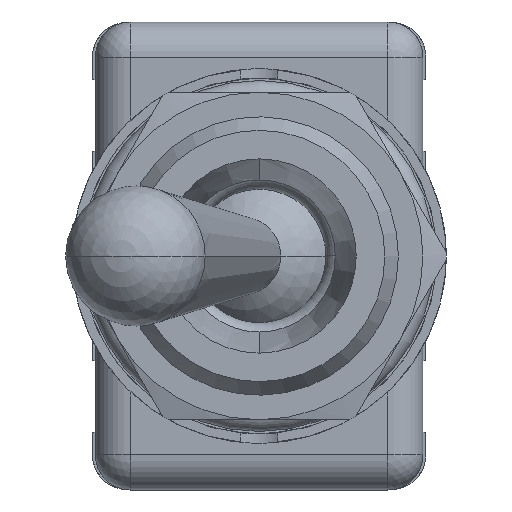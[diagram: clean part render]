
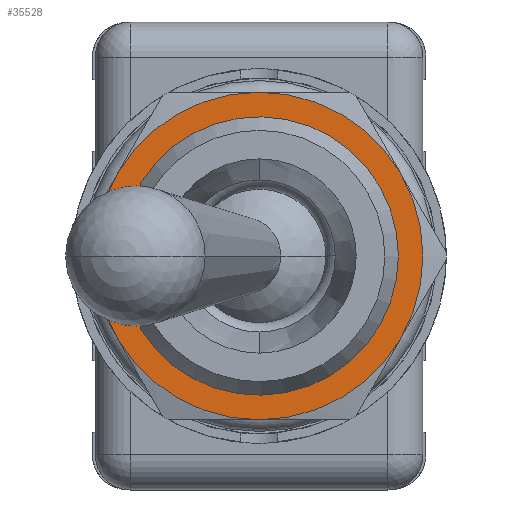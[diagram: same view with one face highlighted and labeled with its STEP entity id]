
A CAD part, front view. The second image highlights one B-rep face of the part: STEP entity #35528.
In plain terms, the highlighted planar face has unit normal (0, -1, 0).
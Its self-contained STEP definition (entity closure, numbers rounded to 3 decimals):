
#13486=CARTESIAN_POINT('',(0.,-17.,0.));
#13487=DIRECTION('',(0.,-1.,0.));
#13488=DIRECTION('',(0.867,0.,-0.499));
#13489=AXIS2_PLACEMENT_3D('',#13486,#13487,#13488);
#13524=DIRECTION('',(0.5,0.,0.866));
#13525=VECTOR('',#13524,0.014);
#13526=CARTESIAN_POINT('',(-6.066,-17.,3.494));
#13527=LINE('',#13526,#13525);
#13528=CARTESIAN_POINT('',(0.,-17.,0.));
#13529=DIRECTION('',(0.,1.,0.));
#13530=DIRECTION('',(-0.866,0.,0.501));
#13531=AXIS2_PLACEMENT_3D('',#13528,#13529,#13530);
#13533=DIRECTION('',(-1.,0.,0.));
#13534=VECTOR('',#13533,0.014);
#13535=CARTESIAN_POINT('',(0.007,-17.,7.));
#13536=LINE('',#13535,#13534);
#13537=CARTESIAN_POINT('',(0.,-17.,0.));
#13538=DIRECTION('',(0.,1.,0.));
#13539=DIRECTION('',(0.001,0.,1.));
#13540=AXIS2_PLACEMENT_3D('',#13537,#13538,#13539);
#13542=DIRECTION('',(-0.5,0.,0.866));
#13543=VECTOR('',#13542,0.014);
#13544=CARTESIAN_POINT('',(6.066,-17.,3.494));
#13545=LINE('',#13544,#13543);
#13546=DIRECTION('',(0.5,0.,0.866));
#13547=VECTOR('',#13546,0.014);
#13548=CARTESIAN_POINT('',(6.059,-17.,-3.506));
#13549=LINE('',#13548,#13547);
#13550=CARTESIAN_POINT('',(0.,-17.,0.));
#13551=DIRECTION('',(0.,-1.,0.));
#13552=DIRECTION('',(0.001,0.,-1.));
#13553=AXIS2_PLACEMENT_3D('',#13550,#13551,#13552);
#13555=DIRECTION('',(1.,0.,0.));
#13556=VECTOR('',#13555,0.014);
#13557=CARTESIAN_POINT('',(-0.007,-17.,-7.));
#13558=LINE('',#13557,#13556);
#13559=CARTESIAN_POINT('',(0.,-17.,0.));
#13560=DIRECTION('',(0.,-1.,0.));
#13561=DIRECTION('',(-0.866,0.,-0.501));
#13562=AXIS2_PLACEMENT_3D('',#13559,#13560,#13561);
#13564=DIRECTION('',(0.5,0.,-0.866));
#13565=VECTOR('',#13564,0.014);
#13566=CARTESIAN_POINT('',(-6.066,-17.,-3.494));
#13567=LINE('',#13566,#13565);
#13568=CARTESIAN_POINT('',(0.,-17.,0.));
#13569=DIRECTION('',(0.,-1.,0.));
#13570=DIRECTION('',(-0.867,0.,0.499));
#13571=AXIS2_PLACEMENT_3D('',#13568,#13569,#13570);
#13585=CARTESIAN_POINT('',(-6.066,-17.,-3.494));
#13632=CARTESIAN_POINT('',(-0.007,-17.,-7.));
#13711=CARTESIAN_POINT('',(6.059,-17.,-3.506));
#13865=CARTESIAN_POINT('',(0.,-17.,0.));
#13866=DIRECTION('',(0.,1.,0.));
#13867=DIRECTION('',(-0.849,0.,0.529));
#13868=AXIS2_PLACEMENT_3D('',#13865,#13866,#13867);
#13933=DIRECTION('',(0.,0.,-1.));
#13934=VECTOR('',#13933,0.294);
#13935=CARTESIAN_POINT('',(-5.05,-17.,3.147));
#13936=LINE('',#13935,#13934);
#13937=DIRECTION('',(0.,0.,-1.));
#13938=VECTOR('',#13937,0.294);
#13939=CARTESIAN_POINT('',(-5.05,-17.,-2.852));
#13940=LINE('',#13939,#13938);
#13982=CARTESIAN_POINT('',(0.,-17.,0.));
#13983=DIRECTION('',(0.,1.,0.));
#13984=DIRECTION('',(-0.871,0.,-0.492));
#13985=AXIS2_PLACEMENT_3D('',#13982,#13983,#13984);
#18743=VERTEX_POINT('',#13585);
#18744=CARTESIAN_POINT('',(-6.059,-17.,-3.506));
#18745=VERTEX_POINT('',#18744);
#18746=VERTEX_POINT('',#13632);
#18747=CARTESIAN_POINT('',(0.007,-17.,-7.));
#18748=VERTEX_POINT('',#18747);
#18749=VERTEX_POINT('',#13711);
#18750=CARTESIAN_POINT('',(6.066,-17.,-3.494));
#18751=VERTEX_POINT('',#18750);
#18752=CARTESIAN_POINT('',(6.066,-17.,3.494));
#18753=CARTESIAN_POINT('',(6.059,-17.,3.506));
#18754=VERTEX_POINT('',#18752);
#18755=VERTEX_POINT('',#18753);
#18756=CARTESIAN_POINT('',(0.007,-17.,7.));
#18757=CARTESIAN_POINT('',(-0.007,-17.,7.));
#18758=VERTEX_POINT('',#18756);
#18759=VERTEX_POINT('',#18757);
#18760=CARTESIAN_POINT('',(-6.066,-17.,3.494));
#18761=CARTESIAN_POINT('',(-6.059,-17.,3.506));
#18762=VERTEX_POINT('',#18760);
#18763=VERTEX_POINT('',#18761);
#18790=CARTESIAN_POINT('',(-5.05,-17.,3.147));
#18791=CARTESIAN_POINT('',(-5.05,-17.,2.853));
#18792=VERTEX_POINT('',#18790);
#18793=VERTEX_POINT('',#18791);
#18794=CARTESIAN_POINT('',(-5.05,-17.,-2.852));
#18795=CARTESIAN_POINT('',(-5.05,-17.,-3.146));
#18796=VERTEX_POINT('',#18794);
#18797=VERTEX_POINT('',#18795);
#35491=CARTESIAN_POINT('',(0.,-17.,0.));
#35492=DIRECTION('',(0.,-1.,0.));
#35493=DIRECTION('',(-1.,0.,0.));
#35494=AXIS2_PLACEMENT_3D('',#35491,#35492,#35493);
#35495=PLANE('',#35494);
#35497=ORIENTED_EDGE('',*,*,#35496,.F.);
#35498=ORIENTED_EDGE('',*,*,#35367,.T.);
#35500=ORIENTED_EDGE('',*,*,#35499,.T.);
#35501=ORIENTED_EDGE('',*,*,#35402,.F.);
#35503=ORIENTED_EDGE('',*,*,#35502,.T.);
#35504=ORIENTED_EDGE('',*,*,#35438,.F.);
#35505=ORIENTED_EDGE('',*,*,#35482,.F.);
#35507=ORIENTED_EDGE('',*,*,#35506,.F.);
#35509=ORIENTED_EDGE('',*,*,#35508,.F.);
#35511=ORIENTED_EDGE('',*,*,#35510,.F.);
#35513=ORIENTED_EDGE('',*,*,#35512,.F.);
#35515=ORIENTED_EDGE('',*,*,#35514,.F.);
#35516=EDGE_LOOP('',(#35497,#35498,#35500,#35501,#35503,#35504,#35505,#35507,
#35509,#35511,#35513,#35515));
#35517=FACE_OUTER_BOUND('',#35516,.F.);
#35519=ORIENTED_EDGE('',*,*,#35518,.F.);
#35521=ORIENTED_EDGE('',*,*,#35520,.T.);
#35523=ORIENTED_EDGE('',*,*,#35522,.F.);
#35525=ORIENTED_EDGE('',*,*,#35524,.T.);
#35526=EDGE_LOOP('',(#35519,#35521,#35523,#35525));
#35527=FACE_BOUND('',#35526,.F.);
#35528=ADVANCED_FACE('',(#35517,#35527),#35495,.T.);
#13490=CIRCLE('',#13489,7.);
#13532=CIRCLE('',#13531,7.);
#13541=CIRCLE('',#13540,7.);
#13554=CIRCLE('',#13553,7.);
#13563=CIRCLE('',#13562,7.);
#13572=CIRCLE('',#13571,7.);
#13869=CIRCLE('',#13868,5.95);
#13986=CIRCLE('',#13985,5.8);
#35367=EDGE_CURVE('',#18762,#18763,#13527,.T.);
#35402=EDGE_CURVE('',#18758,#18759,#13536,.T.);
#35438=EDGE_CURVE('',#18754,#18755,#13545,.T.);
#35482=EDGE_CURVE('',#18751,#18754,#13490,.T.);
#35496=EDGE_CURVE('',#18762,#18743,#13572,.T.);
#35499=EDGE_CURVE('',#18763,#18759,#13532,.T.);
#35502=EDGE_CURVE('',#18758,#18755,#13541,.T.);
#35506=EDGE_CURVE('',#18749,#18751,#13549,.T.);
#35508=EDGE_CURVE('',#18748,#18749,#13554,.T.);
#35510=EDGE_CURVE('',#18746,#18748,#13558,.T.);
#35512=EDGE_CURVE('',#18745,#18746,#13563,.T.);
#35514=EDGE_CURVE('',#18743,#18745,#13567,.T.);
#35518=EDGE_CURVE('',#18792,#18797,#13869,.T.);
#35520=EDGE_CURVE('',#18792,#18793,#13936,.T.);
#35522=EDGE_CURVE('',#18796,#18793,#13986,.T.);
#35524=EDGE_CURVE('',#18796,#18797,#13940,.T.);
